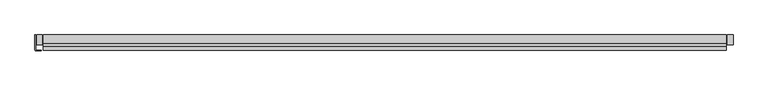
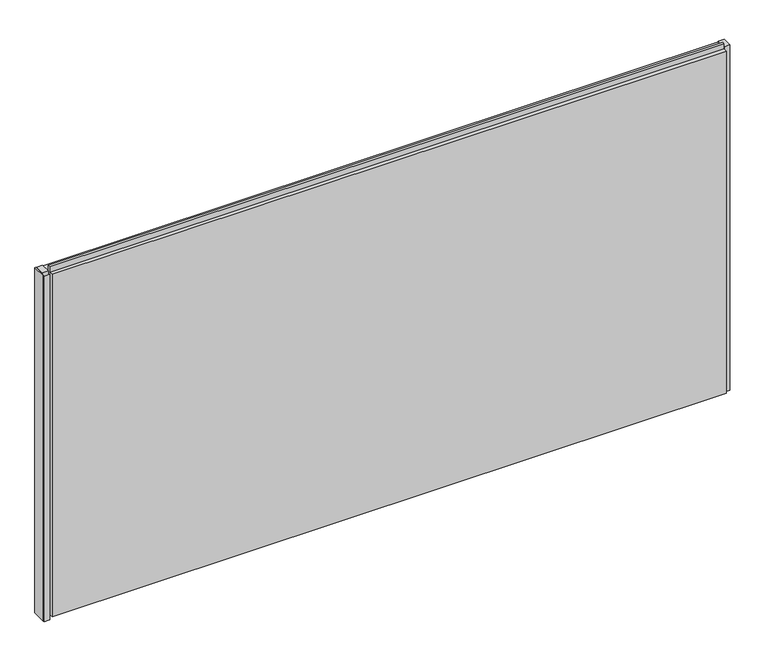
"""IFC4 building model written with IfcOpenShell, lengths in millimetres: plate geometry, Trimo_Qbiss Screen_Normal Panel-HORIZONTAL : HR - FB-F."""

from ifc_helpers import new_model, si_unit, frame, origin, place, context, project, spatial, polyline, outline, extrude, source, transform, mapped, element, save


def plate_21668e5e(model_context):
    return source(origin(), model_context, "Body", "SweptSolid", [
        extrude(outline(polyline([(-1119.0, 100.0), (-1119.0, 50.0), (-1101.5, 50.0), (-1101.5, 49.2), (-1119.8, 49.2), (-1119.8, 99.2), (-1120.8, 99.2), (-1120.8, 52.0), (-1121.6, 52.0), (-1121.6, 100.0), (-1119.0, 100.0)])), frame((0.0, 0.0, -1.0), z_axis=(0.0, 0.0, 1.0), x_axis=(1.0, 0.0, 0.0)), (0.0, 0.0, 1.0), 1200.0),
        extrude(outline(polyline([(-1097.0, 67.8978162), (-1116.0, 67.8978162), (-1116.0, 100.0), (-1097.0, 100.0), (-1097.0, 67.8978162)])), frame((0.0, 0.0, -1.0), z_axis=(0.0, 0.0, 1.0), x_axis=(1.0, 0.0, 0.0)), (0.0, 0.0, 1.0), 1200.0),
        extrude(outline(polyline([(1144.5, 67.8978162), (1125.5, 67.8978162), (1125.5, 100.0), (1144.5, 100.0), (1144.5, 67.8978162)])), frame((0.0, 0.0, -1.0), z_axis=(0.0, 0.0, 1.0), x_axis=(1.0, 0.0, 0.0)), (0.0, 0.0, 1.0), 1200.0),
        extrude(outline(polyline([(71.0, 1196.0), (100.0, 1196.0), (100.0, 0.0), (72.0, 0.0), (72.0, 15.5), (62.0, 15.5), (62.0, 7.0), (50.0, 7.0), (50.0, 1196.0), (63.0, 1196.0), (63.0, 1214.5), (71.0, 1214.5), (71.0, 1196.0)])), frame((-1094.0, 0.0, 0.0), z_axis=(1.0, 0.0, 0.0), x_axis=(0.0, 1.0, 0.0)), (0.0, 0.0, 1.0), 2216.5),
    ])


if __name__ == "__main__":
    model = new_model("IFC4")
    model_context = context("Model", 3, world=origin())
    ifc_project = project(units=[si_unit("LENGTHUNIT", "METRE", prefix="MILLI")], contexts=[model_context])
    site = spatial("IfcSite", under=ifc_project)
    building = spatial("IfcBuilding", under=site)
    placement = place(None, origin())
    plate_shape = plate_21668e5e(model_context)
    element("IfcPlate", 1, ObjectType="Trimo_Qbiss Screen_Normal Panel-HORIZONTAL : HR - FB-F", at=placement, inside=building, context=model_context, shape_type="MappedRepresentation", body=[
        mapped(plate_shape, transform((0.0, 0.0, 0.0), x_axis=(1.0, 0.0, 0.0), y_axis=(0.0, 1.0, 0.0), z_axis=(0.0, 0.0, 1.0))),
    ])
    save(model, "model.ifc")
